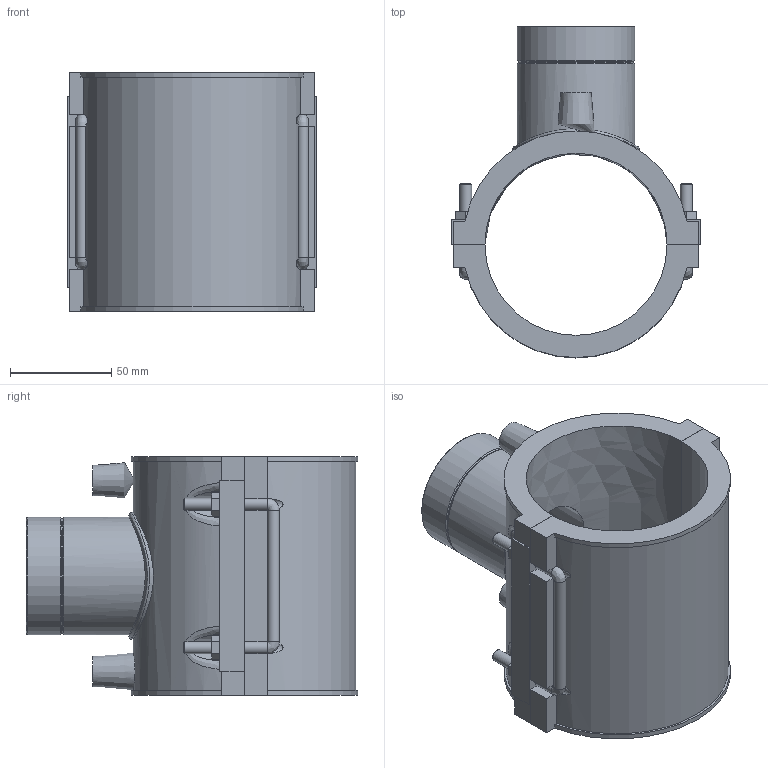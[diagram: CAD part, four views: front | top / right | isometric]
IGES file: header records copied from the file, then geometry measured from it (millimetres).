
Global section: file name: 493804090015.ipt; native system: Autodesk Inventor 2015; preprocessor: unknown; author: KIM; date: 20171106.094101; units: millimetre
Bounding box: 123 x 163.9 x 118 mm (x, y, z)
Volume: 477206.5 mm3; surface area: 116416.2 mm2
Topology: 2 solids, 4 shells, 162 faces, 408 edges, 258 vertices
Faces by surface type: plane 98, cylinder 28, revolution 14, bspline 13, cone 9
Full cylindrical faces by diameter (mm): 4 x2, 6 x8, 57.298 x1, 58.298 x2, 62.783 x1
